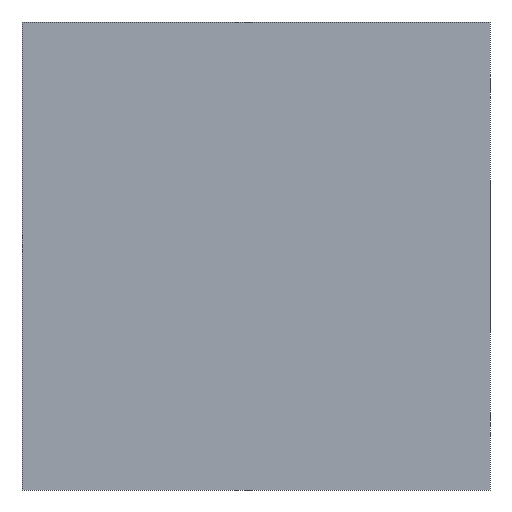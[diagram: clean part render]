
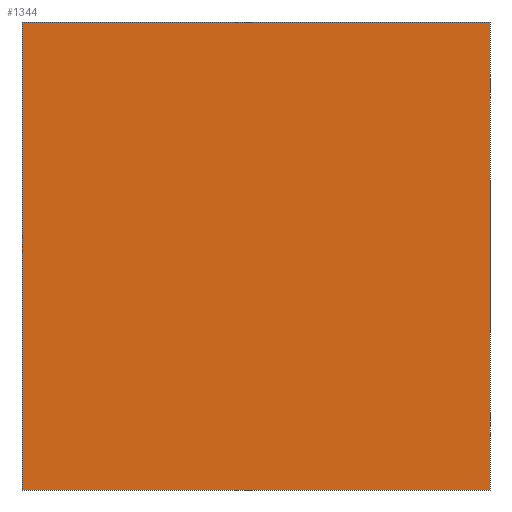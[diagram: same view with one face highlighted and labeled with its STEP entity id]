
A CAD part, front view. The second image highlights one B-rep face of the part: STEP entity #1344.
In plain terms, the highlighted planar face has unit normal (0, -1, 0).
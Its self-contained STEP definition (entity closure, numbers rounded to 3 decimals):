
#165 = CARTESIAN_POINT ( 'NONE',  ( 100., -50., -50. ) ) ;
#579 = LINE ( 'NONE', #756, #4825 ) ;
#756 = CARTESIAN_POINT ( 'NONE',  ( 0., -50., 50. ) ) ;
#839 = DIRECTION ( 'NONE',  ( 0., 0., -1. ) ) ;
#1323 = EDGE_CURVE ( 'NONE', #10631, #3573, #579, .T. ) ;
#1344 = ADVANCED_FACE ( 'NONE', ( #7227 ), #7059, .F. ) ;
#2424 = ORIENTED_EDGE ( 'NONE', *, *, #2428, .T. ) ;
#2428 = EDGE_CURVE ( 'NONE', #14150, #10631, #12944, .T. ) ;
#2497 = DIRECTION ( 'NONE',  ( -1., 0., 0. ) ) ;
#3052 = DIRECTION ( 'NONE',  ( 0., 0., 1. ) ) ;
#3573 = VERTEX_POINT ( 'NONE', #4720 ) ;
#4720 = CARTESIAN_POINT ( 'NONE',  ( 0., -50., -50. ) ) ;
#4754 = LINE ( 'NONE', #9974, #12738 ) ;
#4825 = VECTOR ( 'NONE', #839, 1000. ) ;
#5475 = CARTESIAN_POINT ( 'NONE',  ( 100., -50., 50. ) ) ;
#5518 = ORIENTED_EDGE ( 'NONE', *, *, #1323, .T. ) ;
#5870 = DIRECTION ( 'NONE',  ( 0., 1., 0. ) ) ;
#6582 = CARTESIAN_POINT ( 'NONE',  ( 100., -50., -50. ) ) ;
#7059 = PLANE ( 'NONE',  #9182 ) ;
#7129 = VECTOR ( 'NONE', #14052, 1000. ) ;
#7227 = FACE_OUTER_BOUND ( 'NONE', #8850, .T. ) ;
#8021 = CARTESIAN_POINT ( 'NONE',  ( 0., -50., 50. ) ) ;
#8123 = EDGE_CURVE ( 'NONE', #14696, #3573, #12833, .T. ) ;
#8773 = CARTESIAN_POINT ( 'NONE',  ( 100., -50., 50. ) ) ;
#8850 = EDGE_LOOP ( 'NONE', ( #5518, #12789, #11989, #2424 ) ) ;
#9182 = AXIS2_PLACEMENT_3D ( 'NONE', #12270, #5870, #3052 ) ;
#9974 = CARTESIAN_POINT ( 'NONE',  ( 100., -50., 50. ) ) ;
#10631 = VERTEX_POINT ( 'NONE', #8021 ) ;
#11989 = ORIENTED_EDGE ( 'NONE', *, *, #15847, .F. ) ;
#12270 = CARTESIAN_POINT ( 'NONE',  ( 100., -50., 50. ) ) ;
#12738 = VECTOR ( 'NONE', #15159, 1000. ) ;
#12789 = ORIENTED_EDGE ( 'NONE', *, *, #8123, .F. ) ;
#12833 = LINE ( 'NONE', #6582, #13249 ) ;
#12944 = LINE ( 'NONE', #8773, #7129 ) ;
#13249 = VECTOR ( 'NONE', #2497, 1000. ) ;
#14052 = DIRECTION ( 'NONE',  ( -1., 0., 0. ) ) ;
#14150 = VERTEX_POINT ( 'NONE', #5475 ) ;
#14696 = VERTEX_POINT ( 'NONE', #165 ) ;
#15159 = DIRECTION ( 'NONE',  ( 0., 0., -1. ) ) ;
#15847 = EDGE_CURVE ( 'NONE', #14150, #14696, #4754, .T. ) ;
